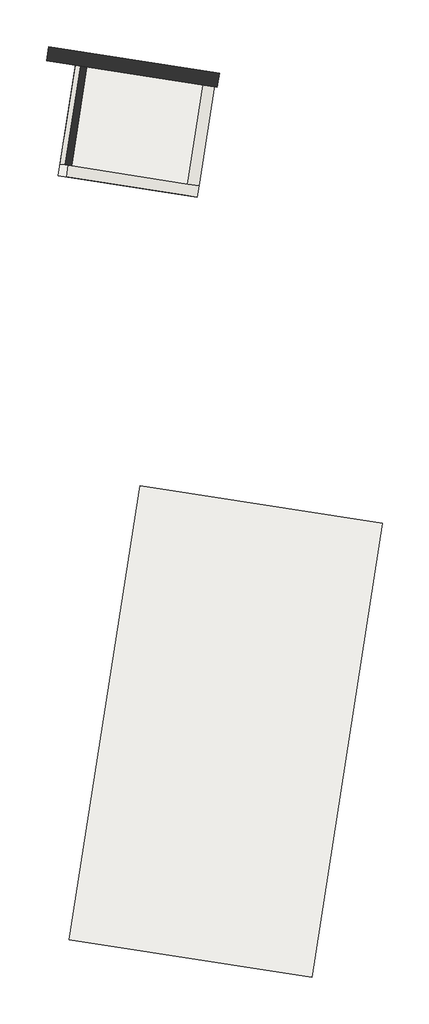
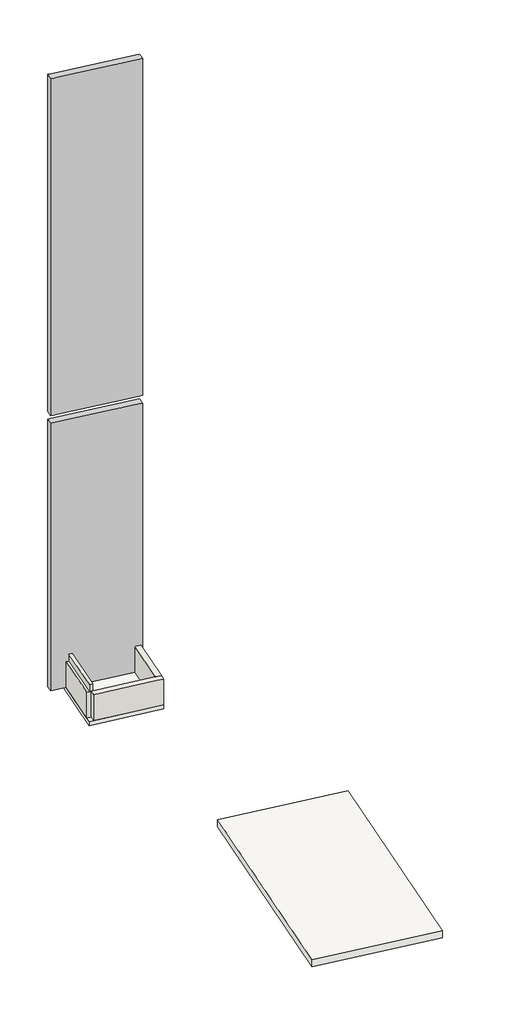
# One storey: 3 walls, 2 slabs, 1 column.
"""IFC4 building model written with IfcOpenShell, lengths in millimetres."""

from ifc_helpers import new_model, si_unit, frame, origin, place, context, project, spatial, polyline, outline, extrude, faceted_brep, element, save

model = new_model("IFC4")

# Units and contexts
model_context = context("Model", 3, world=origin())
ifc_project = project(units=[si_unit("LENGTHUNIT", "METRE", prefix="MILLI")], contexts=[model_context])

# Site, building, storey
site = spatial("IfcSite", under=ifc_project)
building = spatial("IfcBuilding", under=site)
storey = spatial("IfcBuildingStorey", under=building, Name="FOSO ELEVADOR", Elevation=-7020.0)

# Column
placement = place(None, origin())
element("IfcColumn", 1, ObjectType="M_Hormigón-Rectangular-Pilar : C6 (25 X 300)", at=placement, inside=storey, context=model_context, shape_type="Brep", body=[
    faceted_brep([(-32597.5911868, -62023.7748049, -7020.0), (-29633.3832633, -62485.8044428, -7020.0), (-29671.8857331, -62732.8217697, -7020.0), (-32636.0936566, -62270.7921319, -7020.0), (-29633.3832633, -62485.8044428, 2920.0), (-32488.9035608, -62040.715892, 2920.0), (-32597.5911868, -62023.7748049, 2920.0), (-32636.0936566, -62270.7921319, 2920.0), (-32428.5991078, -62303.1342056, 2920.0), (-29918.9030437, -62694.3193025, 2920.0), (-29770.6926475, -62717.4207844, 2920.0), (-29671.8857331, -62732.8217697, 2920.0), (-29654.9446464, -62624.134146, 2920.0), (-32597.5911868, -62023.7748049, -5800.0), (-32597.5911868, -62023.7748049, -3000.0), (-32597.5911868, -62023.7748049, 200.0), (-29633.3832633, -62485.8044428, 200.0), (-29633.3832633, -62485.8044428, 0.0), (-29633.3832633, -62485.8044428, -3000.0), (-29633.3832633, -62485.8044428, -5800.0), (-29671.8857331, -62732.8217697, 200.0), (-29671.8857331, -62732.8217697, -3000.0), (-29671.8857331, -62732.8217697, -5800.0), (-32636.0936566, -62270.7921319, -5800.0), (-32636.0936566, -62270.7921319, -3000.0), (-32636.0936566, -62270.7921319, 0.0), (-32636.0936566, -62270.7921319, 200.0)], [[[0, 1, 2, 3]], [[4, 5, 6, 7, 8, 9, 10, 11, 12]], [[1, 0, 13, 14, 15, 6, 5, 4, 16, 17, 18, 19]], [[2, 1, 19, 18, 17, 16, 4, 12, 11, 20, 21, 22]], [[0, 3, 23, 24, 25, 26, 7, 6, 15, 14, 13]], [[3, 2, 22, 21, 20, 11, 10, 9, 8, 7, 26, 25, 24, 23]]]),
    faceted_brep([(-32597.5911868, -62023.7748049, 15720.0), (-32488.9035608, -62040.715892, 15720.0), (-29732.1902067, -62470.4034529, 15720.0), (-29633.3832633, -62485.8044428, 15720.0), (-29633.3832633, -62485.8044428, 12800.0), (-29633.3832633, -62485.8044428, 12520.0), (-29633.3832633, -62485.8044428, 9600.0), (-29633.3832633, -62485.8044428, 9320.0), (-29633.3832633, -62485.8044428, 6400.0), (-29633.3832633, -62485.8044428, 6120.0), (-29633.3832633, -62485.8044428, 3200.0), (-32488.9035653, -62040.7158913, 3200.0), (-32597.5911868, -62023.7748049, 3200.0), (-32597.5911868, -62023.7748049, 6400.0), (-32597.5911868, -62023.7748049, 9600.0), (-32597.5911868, -62023.7748049, 12800.0), (-29653.4045485, -62614.2534582, 15720.0), (-29671.8857331, -62732.8217697, 15720.0), (-29671.8857331, -62732.8217697, 12800.0), (-29671.8857331, -62732.8217697, 3200.0), (-29656.4847452, -62634.014839, 3200.0), (-29770.6926475, -62717.4207844, 15720.0), (-29918.9030437, -62694.3193025, 15720.0), (-32428.5991078, -62303.1342056, 15720.0), (-32527.4060297, -62287.7332191, 15720.0), (-32636.0936566, -62270.7921319, 15720.0), (-32636.0936566, -62270.7921319, 12800.0), (-32636.0936566, -62270.7921319, 9600.0), (-32636.0936566, -62270.7921319, 6400.0), (-32636.0936566, -62270.7921319, 3200.0), (-32527.4060342, -62287.7332184, 3200.0), (-32428.5991078, -62303.1342056, 3200.0), (-29918.9030437, -62694.3193025, 3200.0), (-29770.6926475, -62717.4207844, 3200.0), (-32619.1525694, -62162.1045044, 15720.0)], [[[0, 1, 2, 3, 4, 5, 6, 7, 8, 9, 10, 11, 12, 13, 14, 15]], [[3, 16, 17, 18, 19, 20, 10, 9, 8, 7, 6, 5, 4]], [[17, 21, 22, 23, 24, 25, 26, 27, 28, 29, 30, 31, 32, 33, 19, 18]], [[25, 34, 0, 15, 14, 13, 12, 29, 28, 27, 26]], [[3, 2, 1, 0, 34, 25, 24, 23, 22, 21, 17, 16]], [[12, 11, 10, 20, 19, 33, 32, 31, 30, 29]]]),
])

# Slabs
element("IfcSlab", 2, ObjectType="losa concreto 15 cms", at=placement, inside=storey, context=model_context, shape_type="SweptSolid", body=[
    extrude(outline(polyline([(-29682.7867123, -62478.1039515), (-30019.3701885, -64637.4966082), (-32430.2593314, -64261.7124978), (-32093.6758552, -62102.3198411), (-29682.7867123, -62478.1039515)])), frame((0.0, 0.0, -7170.0), z_axis=(0.0, 0.0, 1.0), x_axis=(1.0, 0.0, 0.0)), (0.0, 0.0, 1.0), 150.0),
])
element("IfcSlab", 3, ObjectType="Suelo-losa 25cms sótano", at=placement, inside=storey, context=model_context, shape_type="SweptSolid", body=[
    extrude(outline(polyline([(-26802.2149842, -70294.4560559), (-28029.7720182, -78169.9990706), (-32238.9472528, -77513.9169874), (-31011.3902187, -69638.3739728), (-26802.2149842, -70294.4560559)])), frame((0.0, 0.0, -8160.0), z_axis=(0.0, 0.0, 1.0), x_axis=(1.0, 0.0, 0.0)), (0.0, 0.0, 1.0), 260.0),
])

# Walls
element("IfcWall", 4, ObjectType="Muro Contención - 20 cm", at=placement, inside=storey, context=model_context, shape_type="Brep", body=[
    faceted_brep([(-32286.9892818, -64284.0439303, -7020.0), (-30019.3701885, -64637.4966082, -7020.0), (-30019.3701885, -64637.4966082, -6060.0), (-30216.9840501, -64606.6946323, -6060.0), (-32286.9892818, -64284.0439303, -6060.0), (-29988.5682127, -64439.8827466, -7020.0), (-30186.1820742, -64409.0807708, -7020.0), (-32256.1873059, -64086.4300687, -7020.0), (-32256.1873059, -64086.4300687, -6060.0), (-30186.1820742, -64409.0807708, -6060.0), (-29988.5682127, -64439.8827466, -6060.0)], [[[0, 1, 2, 3, 4]], [[5, 6, 7, 8, 9, 10]], [[1, 0, 7, 6, 5]], [[7, 0, 4, 8]], [[1, 5, 10, 2]], [[4, 3, 2, 10, 9, 8]]]),
])
element("IfcWall", 5, ObjectType="Muro Contención - 20 cm", at=placement, inside=storey, context=model_context, shape_type="Brep", body=[
    faceted_brep([(-29988.5682127, -64439.8827466, -7020.0), (-29717.5108251, -62700.8807648, -7020.0), (-29717.5108251, -62700.8807648, -6060.0), (-29988.5682127, -64439.8827466, -6060.0), (-29915.1246867, -62670.078789, -7020.0), (-30186.1820742, -64409.0807708, -7020.0), (-30186.1820742, -64409.0807708, -6060.0), (-29918.9030438, -62694.3193033, -6060.0), (-29915.1246867, -62670.078789, -6060.0)], [[[0, 1, 2, 3]], [[4, 5, 6, 7, 8]], [[1, 0, 5, 4]], [[1, 4, 8, 2]], [[5, 0, 3, 6]], [[3, 2, 8, 7, 6]]]),
])
element("IfcWall", 6, ObjectType="Muro Contención - 20 cm", at=placement, inside=storey, context=model_context, shape_type="Brep", body=[
    faceted_brep([(-32132.1783251, -62349.3371688, -7020.0), (-32399.4573556, -64064.0986362, -7020.0), (-32399.4573556, -64064.0986362, -6060.0), (-32344.7376454, -63713.0376109, -6060.0), (-32313.9356695, -63515.4237493, -6060.0), (-32132.1783251, -62349.3371688, -6060.0), (-32201.843494, -64094.9006121, -7020.0), (-31934.5644636, -62380.1391446, -7020.0), (-31934.5644636, -62380.1391446, -6060.0), (-31934.5644636, -62380.1391446, -5800.0), (-32201.843494, -64094.9006121, -5800.0), (-32201.843494, -64094.9006121, -6060.0), (-32256.1873059, -64086.4300687, -7020.0), (-32043.2520874, -62363.1980579, -5800.0), (-32310.5311179, -64077.9595254, -5800.0), (-32043.2520874, -62363.1980579, -6060.0), (-32310.5311179, -64077.9595254, -6060.0)], [[[0, 1, 2, 3, 4, 5]], [[6, 7, 8, 9, 10, 11]], [[1, 0, 7, 6, 12]], [[10, 9, 13, 14]], [[7, 0, 5, 15, 13, 9, 8]], [[1, 12, 6, 11, 10, 14, 16, 2]], [[16, 15, 5, 4, 3, 2]], [[15, 16, 14, 13]]]),
])

save(model, "model.ifc")
